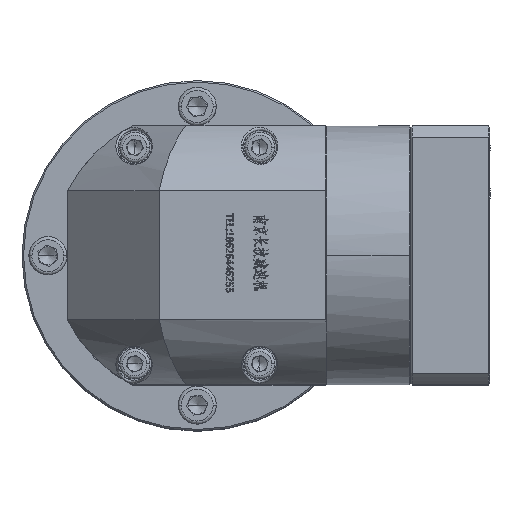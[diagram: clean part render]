
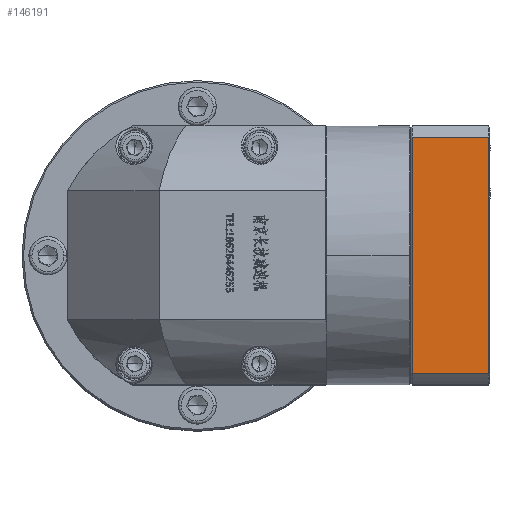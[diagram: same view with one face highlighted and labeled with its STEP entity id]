
A CAD part, top view. The second image highlights one B-rep face of the part: STEP entity #146191.
In plain terms, the highlighted planar face has unit normal (0, 0, 1).
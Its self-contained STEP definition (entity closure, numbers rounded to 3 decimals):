
#4004 = EDGE_CURVE ( 'NONE', #180139, #158529, #131959, .T. ) ;
#8435 = ORIENTED_EDGE ( 'NONE', *, *, #65862, .F. ) ;
#9991 = VECTOR ( 'NONE', #87764, 1000. ) ;
#17993 = DIRECTION ( 'NONE',  ( 0., 1., 0. ) ) ;
#20424 = VECTOR ( 'NONE', #184572, 1000. ) ;
#25326 = CARTESIAN_POINT ( 'NONE',  ( -59.948, 99.144, 49.771 ) ) ;
#25494 = DIRECTION ( 'NONE',  ( 1., 0., 0. ) ) ;
#51498 = CARTESIAN_POINT ( 'NONE',  ( 104.813, 99.144, 49.771 ) ) ;
#57642 = LINE ( 'NONE', #144896, #9991 ) ;
#58552 = EDGE_LOOP ( 'NONE', ( #67845, #181486, #96189, #8435 ) ) ;
#65862 = EDGE_CURVE ( 'NONE', #149725, #180139, #92916, .T. ) ;
#67845 = ORIENTED_EDGE ( 'NONE', *, *, #158027, .T. ) ;
#67908 = VERTEX_POINT ( 'NONE', #51498 ) ;
#74132 = DIRECTION ( 'NONE',  ( 0., -1., 0. ) ) ;
#87764 = DIRECTION ( 'NONE',  ( 0., -1., 0. ) ) ;
#88232 = CARTESIAN_POINT ( 'NONE',  ( 129.813, 99.144, 49.771 ) ) ;
#89351 = CARTESIAN_POINT ( 'NONE',  ( 129.813, 95.374, 49.771 ) ) ;
#89453 = CARTESIAN_POINT ( 'NONE',  ( 104.813, 176.604, 49.771 ) ) ;
#92846 = DIRECTION ( 'NONE',  ( 0., 0., -1. ) ) ;
#92916 = LINE ( 'NONE', #167504, #138471 ) ;
#96189 = ORIENTED_EDGE ( 'NONE', *, *, #4004, .F. ) ;
#114575 = FACE_OUTER_BOUND ( 'NONE', #58552, .T. ) ;
#118213 = LINE ( 'NONE', #25326, #20424 ) ;
#131959 = LINE ( 'NONE', #89351, #150068 ) ;
#136602 = EDGE_CURVE ( 'NONE', #158529, #67908, #118213, .T. ) ;
#138471 = VECTOR ( 'NONE', #25494, 1000. ) ;
#144896 = CARTESIAN_POINT ( 'NONE',  ( 104.813, 95.374, 49.771 ) ) ;
#146191 = ADVANCED_FACE ( 'NONE', ( #114575 ), #164403, .F. ) ;
#149725 = VERTEX_POINT ( 'NONE', #89453 ) ;
#150068 = VECTOR ( 'NONE', #74132, 1000. ) ;
#158027 = EDGE_CURVE ( 'NONE', #149725, #67908, #57642, .T. ) ;
#158529 = VERTEX_POINT ( 'NONE', #88232 ) ;
#162126 = AXIS2_PLACEMENT_3D ( 'NONE', #163785, #92846, #17993 ) ;
#163785 = CARTESIAN_POINT ( 'NONE',  ( 130.313, 95.374, 49.771 ) ) ;
#164403 = PLANE ( 'NONE',  #162126 ) ;
#167504 = CARTESIAN_POINT ( 'NONE',  ( 130.313, 176.604, 49.771 ) ) ;
#168138 = CARTESIAN_POINT ( 'NONE',  ( 129.813, 176.604, 49.771 ) ) ;
#180139 = VERTEX_POINT ( 'NONE', #168138 ) ;
#181486 = ORIENTED_EDGE ( 'NONE', *, *, #136602, .F. ) ;
#184572 = DIRECTION ( 'NONE',  ( -1., 0., 0. ) ) ;
